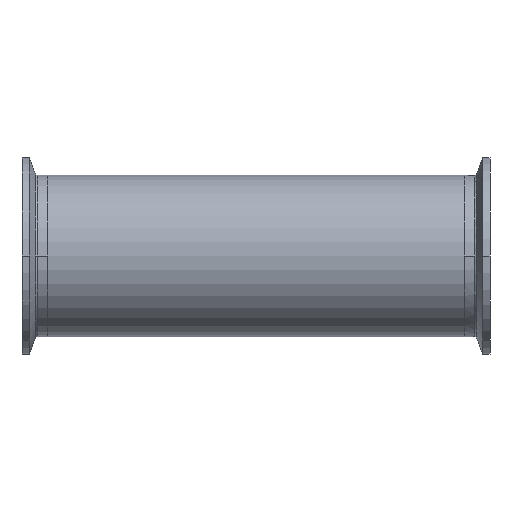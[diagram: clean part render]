
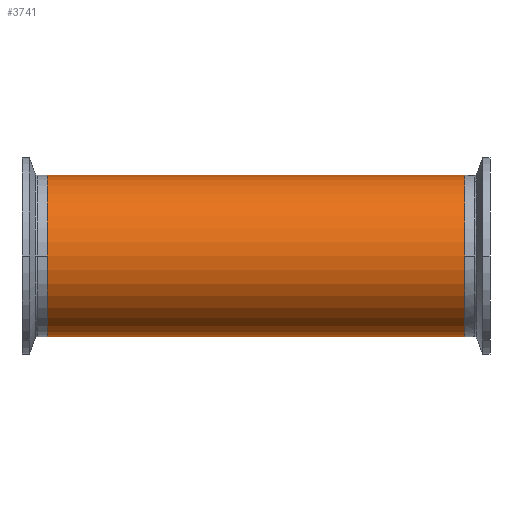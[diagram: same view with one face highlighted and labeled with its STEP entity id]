
A CAD part, front view. The second image highlights one B-rep face of the part: STEP entity #3741.
In plain terms, the highlighted cylindrical face has radius 31.75 mm (diameter 63.5 mm), a partial arc.
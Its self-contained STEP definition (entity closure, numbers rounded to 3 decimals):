
#15 = CARTESIAN_POINT ( 'NONE',  ( -82.1, 0., -31.75 ) ) ;
#26 = FACE_OUTER_BOUND ( 'NONE', #3776, .T. ) ;
#29 = EDGE_CURVE ( 'NONE', #4192, #3229, #4368, .T. ) ;
#45 = EDGE_CURVE ( 'NONE', #3642, #4192, #1516, .T. ) ;
#90 = CIRCLE ( 'NONE', #3112, 31.75 ) ;
#245 = VERTEX_POINT ( 'NONE', #4150 ) ;
#486 = VECTOR ( 'NONE', #3271, 1000. ) ;
#490 = ORIENTED_EDGE ( 'NONE', *, *, #3165, .T. ) ;
#1027 = DIRECTION ( 'NONE',  ( 0., 0., 1. ) ) ;
#1087 = CARTESIAN_POINT ( 'NONE',  ( 82.1, 0., 0. ) ) ;
#1144 = VECTOR ( 'NONE', #3674, 1000. ) ;
#1386 = CYLINDRICAL_SURFACE ( 'NONE', #2921, 31.75 ) ;
#1410 = DIRECTION ( 'NONE',  ( -1., 0., 0. ) ) ;
#1426 = CARTESIAN_POINT ( 'NONE',  ( 171.903, 0., -31.75 ) ) ;
#1473 = DIRECTION ( 'NONE',  ( 0., 0., 1. ) ) ;
#1484 = ORIENTED_EDGE ( 'NONE', *, *, #29, .T. ) ;
#1516 = LINE ( 'NONE', #3291, #486 ) ;
#1883 = ORIENTED_EDGE ( 'NONE', *, *, #3010, .F. ) ;
#2560 = CARTESIAN_POINT ( 'NONE',  ( 82.1, 0., 31.75 ) ) ;
#2921 = AXIS2_PLACEMENT_3D ( 'NONE', #3657, #1410, #1027 ) ;
#3010 = EDGE_CURVE ( 'NONE', #245, #3229, #4024, .T. ) ;
#3112 = AXIS2_PLACEMENT_3D ( 'NONE', #1087, #3715, #1473 ) ;
#3165 = EDGE_CURVE ( 'NONE', #245, #3642, #90, .T. ) ;
#3229 = VERTEX_POINT ( 'NONE', #15 ) ;
#3271 = DIRECTION ( 'NONE',  ( -1., 0., 0. ) ) ;
#3291 = CARTESIAN_POINT ( 'NONE',  ( 171.903, 0., 31.75 ) ) ;
#3428 = DIRECTION ( 'NONE',  ( 0., 0., 1. ) ) ;
#3447 = DIRECTION ( 'NONE',  ( 1., 0., 0. ) ) ;
#3463 = CARTESIAN_POINT ( 'NONE',  ( -82.1, 0., 0. ) ) ;
#3494 = AXIS2_PLACEMENT_3D ( 'NONE', #3463, #3447, #3428 ) ;
#3642 = VERTEX_POINT ( 'NONE', #2560 ) ;
#3657 = CARTESIAN_POINT ( 'NONE',  ( 171.903, 0., 0. ) ) ;
#3674 = DIRECTION ( 'NONE',  ( -1., 0., 0. ) ) ;
#3715 = DIRECTION ( 'NONE',  ( -1., 0., 0. ) ) ;
#3741 = ADVANCED_FACE ( 'NONE', ( #26 ), #1386, .T. ) ;
#3776 = EDGE_LOOP ( 'NONE', ( #1883, #490, #4167, #1484 ) ) ;
#4024 = LINE ( 'NONE', #1426, #1144 ) ;
#4150 = CARTESIAN_POINT ( 'NONE',  ( 82.1, 0., -31.75 ) ) ;
#4167 = ORIENTED_EDGE ( 'NONE', *, *, #45, .T. ) ;
#4192 = VERTEX_POINT ( 'NONE', #4230 ) ;
#4230 = CARTESIAN_POINT ( 'NONE',  ( -82.1, 0., 31.75 ) ) ;
#4368 = CIRCLE ( 'NONE', #3494, 31.75 ) ;
